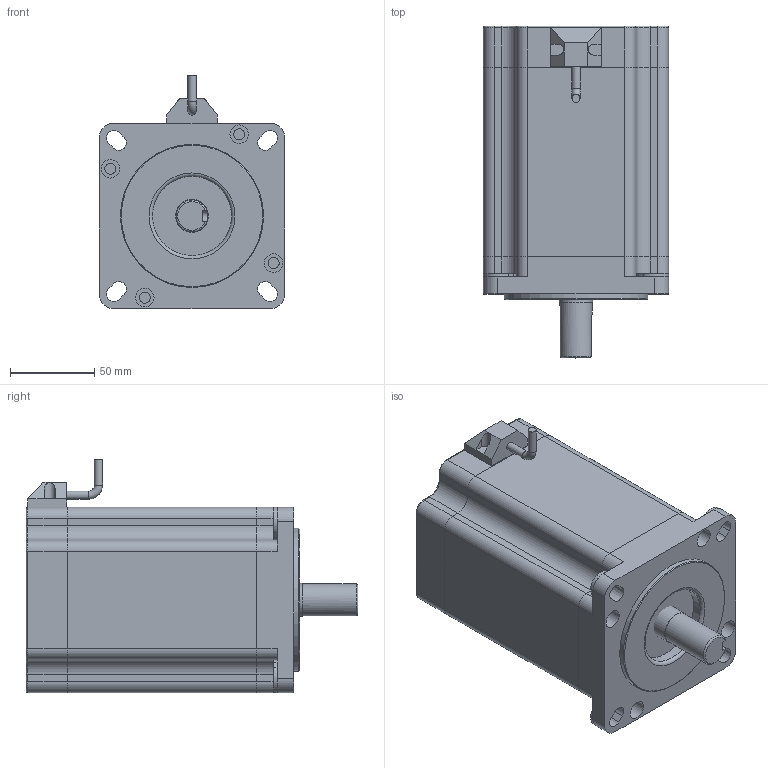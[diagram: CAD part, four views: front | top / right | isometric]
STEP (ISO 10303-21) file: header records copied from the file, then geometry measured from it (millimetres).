
FILE_DESCRIPTION(/* description */ (''),/* implementation_level */ '2;1');
FILE_NAME(/* name */ '110BYG250C.stp',/* time_stamp */ '2024-08-15T16:25:49+08:00',/* author */ (''),/* organization */ (''),/* preprocessor_version */ 'ST-DEVELOPER v18.1',/* originating_system */ 'SIEMENS PLM Software NX 2000',/* authorisation */ '');
FILE_SCHEMA (('AUTOMOTIVE_DESIGN { 1 0 10303 214 3 1 1 1 }'));
Length unit declared in the file: millimetre
Products named in the file (1): 110BYG250B电机外形图
Bounding box: 110 x 197 x 138.44 mm (x, y, z)
Volume: 1696015 mm3; surface area: 152763.6 mm2
Topology: 6 solids, 6 shells, 226 faces, 577 edges, 371 vertices
Faces by surface type: plane 104, cylinder 98, torus 15, cone 9
Full cylindrical faces by diameter (mm): 4.8 x2, 6.5 x12, 11 x4, 19 x1, 19.7 x1, 20 x1, 47 x1, 85 x1
Entity records: 6806 total; most frequent: DIRECTION 1210, CARTESIAN_POINT 1195, ORIENTED_EDGE 1082, EDGE_CURVE 541, AXIS2_PLACEMENT_3D 445, VERTEX_POINT 361, LINE 320, VECTOR 320
